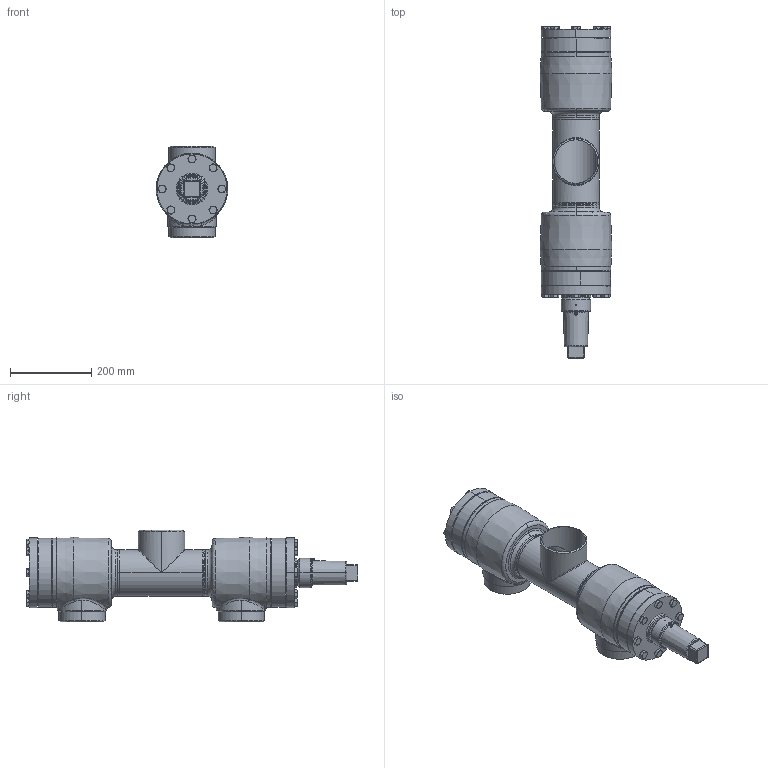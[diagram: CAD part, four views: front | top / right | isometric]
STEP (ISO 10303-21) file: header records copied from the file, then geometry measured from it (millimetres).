
FILE_DESCRIPTION (( 'STEP AP214' ), '1' );
FILE_NAME ('WVB23000D19-DN100_R1_PS40.STEP', '2010-09-08T08:16:33', ( 'Eckhard Grams' ), ( 'AWP Kälte Klima Armaturen GmbH' ), 'SwSTEP 2.0', 'SolidWorks 2002296', '' );
FILE_SCHEMA (( 'AUTOMOTIVE_DESIGN' ));
Length unit declared in the file: millimetre
Products named in the file (15): WVB23000D19-DN100_R1_PS40; Geh,kpl23000E19-DN100_R1_PS40_Standard; T-Stück DIN2615_DN100; Gehäuse23000E19-DN100_R1_PS40_Standard; Kopfstück16300-DN100_Standard; bead23000-19-2kopf_Standard; bead23000-19-2_Standard; bead23000-19-1kopf_Standard; bead23000-19-1_Standard; AVB16300E19_Deck+Schr-DN100_Standard; Deckel16300E19-DN100_Standard; Kappe 16402-19_DN80-100 (M60x3)_Standard; WVB-R23000E19_Deck+Schr-DN100_Standard; Deckel23000E19-DN100_Standard; Sechskantschraube-DIN933_M12x 35
Assembly tree (31 placements, depth 3):
  WVB23000D19-DN100_R1_PS40
    WVB-R23000E19_Deck+Schr-DN100_Standard
      Sechskantschraube-DIN933_M12x 35  x8
      Deckel23000E19-DN100_Standard
    Geh,kpl23000E19-DN100_R1_PS40_Standard
      Kopfstück16300-DN100_Standard  x2
      bead23000-19-1kopf_Standard
      bead23000-19-1_Standard
      Gehäuse23000E19-DN100_R1_PS40_Standard  x2
      bead23000-19-2kopf_Standard
      bead23000-19-2_Standard
      T-Stück DIN2615_DN100
    Kappe 16402-19_DN80-100 (M60x3)_Standard
    AVB16300E19_Deck+Schr-DN100_Standard
      Sechskantschraube-DIN933_M12x 35  x8
      Deckel16300E19-DN100_Standard
Bounding box: 176.38 x 816.5 x 225 mm (x, y, z)
Volume: 5375830.5 mm3; surface area: 983108.9 mm2
Topology: 28 solids, 28 shells, 731 faces, 1593 edges, 946 vertices
Faces by surface type: cone 279, plane 204, cylinder 182, bspline 40, torus 26
Entity records: 33061 total; most frequent: CARTESIAN_POINT 25302, DIRECTION 1468, ORIENTED_EDGE 1362, EDGE_CURVE 681, AXIS2_PLACEMENT_3D 634, VERTEX_POINT 419, EDGE_LOOP 372, CIRCLE 330
